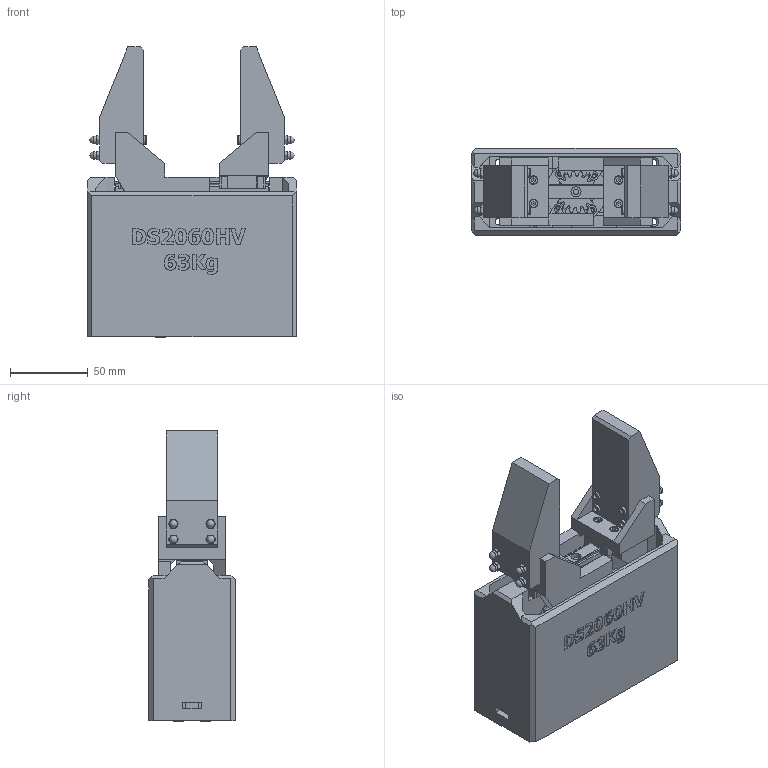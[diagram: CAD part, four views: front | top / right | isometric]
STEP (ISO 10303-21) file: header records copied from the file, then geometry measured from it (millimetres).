
FILE_DESCRIPTION(/* description */ (''),/* implementation_level */ '2;1');
FILE_NAME(/* name */ 'gripper_strong.stp',/* time_stamp */ '2025-12-24T10:34:08+01:00',/* author */ ('R5800u'),/* organization */ (''),/* preprocessor_version */ 'ST-DEVELOPER v20',/* originating_system */ 'Autodesk Inventor 2025',/* authorisation */ '');
FILE_SCHEMA (('AUTOMOTIVE_DESIGN { 1 0 10303 214 3 1 1 }'));
Length unit declared in the file: millimetre
Products named in the file (16): base_DS2060HV-2; servo_DS2060HV; Linear Rail & Block LML9B; Linear Guide Rail LML9B; Linear Guide Block LML9B; pignone; cremagliera; frame; disco_60_Kg; blocchi_poszionamento; blocco_motore; ANSI B18.3.1M - M4x0,7 x 55, FSHCSM; pinza; ANSI B18.3.1M - M3x0,5 x 30, FSHCSM; UN 5721 - M3; ANSI B18.3.1M - M3x0,5 x 10, FSHCSM
Assembly tree (41 placements, depth 3):
  base_DS2060HV-2
    servo_DS2060HV
    Linear Rail & Block LML9B
      Linear Guide Rail LML9B
      Linear Guide Block LML9B  x2
    pignone
    cremagliera  x2
    frame
    disco_60_Kg
    blocchi_poszionamento  x2
    blocco_motore
    ANSI B18.3.1M - M4x0,7 x 55, FSHCSM  x2
    pinza  x2
    ANSI B18.3.1M - M3x0,5 x 30, FSHCSM  x8
    UN 5721 - M3  x8
    ANSI B18.3.1M - M3x0,5 x 10, FSHCSM  x8
Bounding box: 135 x 56 x 187.1 mm (x, y, z)
Volume: 585710.8 mm3; surface area: 180557.8 mm2
Topology: 50 solids, 51 shells, 1593 faces, 4103 edges, 2675 vertices
Faces by surface type: plane 917, cylinder 284, bspline 180, cone 168, torus 36, sphere 8
Full cylindrical faces by diameter (mm): 1.567 x2, 2.3 x16, 2.459 x10, 2.5 x8, 2.9 x2, 3 x17, 3.1 x2, 3.2 x28, 3.4 x11, 4 x2, 4.3 x6, 4.5 x2, 5 x8, 5.5 x16, 5.6 x20, 6 x1, 6.5 x3, 6.7 x1, 7 x4, 7.5 x1, 10 x1, 11.8 x1, 12 x2, 24 x1, 39.3 x2
Entity records: 35534 total; most frequent: CARTESIAN_POINT 10881, ORIENTED_EDGE 5170, DIRECTION 4319, EDGE_CURVE 2586, LINE 1743, VECTOR 1743, VERTEX_POINT 1713, AXIS2_PLACEMENT_3D 1288
